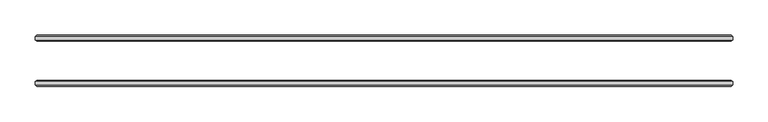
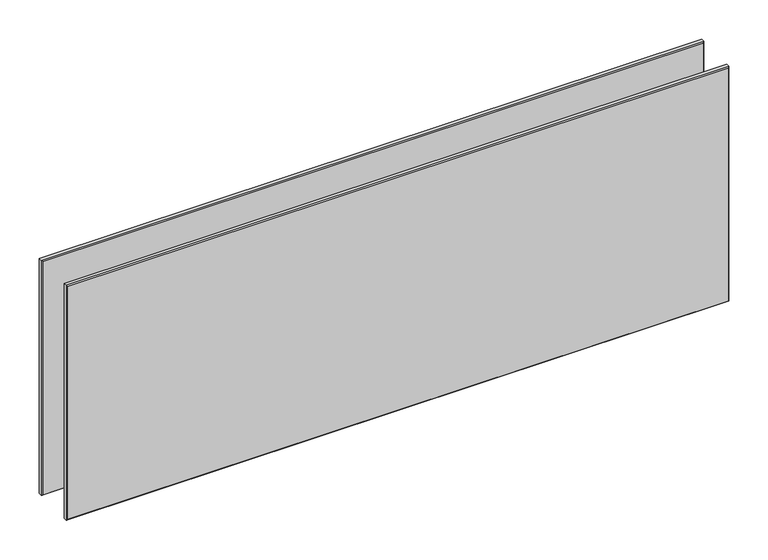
"""IFC4 building model written with IfcOpenShell, lengths in millimetres: plate geometry, 3-AMG-2-Панель двойной витраж 8, 10 : Смещение 32 Толщина 8mm."""

from ifc_helpers import new_model, si_unit, origin, place, context, project, spatial, faceted_brep, source, transform, mapped, element, save


def plate_1a683a38(model_context):
    return source(origin(), model_context, "Body", "Brep", [
        faceted_brep([(491.2682676, -34.4961653, 361.9623438), (491.2682676, -29.5038347, 361.9623438), (-491.2682676, -29.5038347, 361.9623438), (-491.2682676, -34.4961653, 361.9623438), (491.2682676, -29.5038347, -7.0), (491.2682676, -34.4961653, -7.0), (-491.2682676, -34.4961653, -7.0), (-491.2682676, -29.5038347, -7.0), (-489.7644328, -28.0, 360.4585091), (489.7644328, -28.0, 360.4585091), (489.7644328, -28.0, -5.5039422), (-489.7644328, -28.0, -5.5039422), (489.7644328, -36.0, 360.4585091), (-489.7644328, -36.0, 360.4585091), (-489.7644328, -36.0, -5.4961653), (489.7644328, -36.0, -5.4961653)], [[[0, 1, 2, 3]], [[4, 5, 6, 7]], [[8, 9, 10, 11]], [[3, 2, 7, 6]], [[12, 13, 14, 15]], [[1, 0, 5, 4]], [[1, 4, 10, 9]], [[5, 0, 12, 15]], [[0, 3, 13, 12]], [[2, 1, 9, 8]], [[7, 2, 8, 11]], [[3, 6, 14, 13]], [[6, 5, 15, 14]], [[4, 7, 11, 10]]]),
        faceted_brep([(491.2682676, 29.5038347, 361.9623438), (491.2682676, 34.4961653, 361.9623438), (-491.2682676, 34.4961653, 361.9623438), (-491.2682676, 29.5038347, 361.9623438), (491.2682676, 34.4961653, -7.0), (491.2682676, 29.5038347, -7.0), (-491.2682676, 29.5038347, -7.0), (-491.2682676, 34.4961653, -7.0), (-489.7644328, 36.0, 360.4585091), (489.7644328, 36.0, 360.4585091), (489.7644328, 36.0, -5.5039422), (-489.7644328, 36.0, -5.5039422), (489.7644328, 28.0, 360.4585091), (-489.7644328, 28.0, 360.4585091), (-489.7644328, 28.0, -5.4961653), (489.7644328, 28.0, -5.4961653)], [[[0, 1, 2, 3]], [[4, 5, 6, 7]], [[8, 9, 10, 11]], [[3, 2, 7, 6]], [[12, 13, 14, 15]], [[1, 0, 5, 4]], [[1, 4, 10, 9]], [[5, 0, 12, 15]], [[7, 2, 8, 11]], [[3, 6, 14, 13]], [[0, 3, 13, 12]], [[2, 1, 9, 8]], [[6, 5, 15, 14]], [[4, 7, 11, 10]]]),
    ])


if __name__ == "__main__":
    model = new_model("IFC4")
    model_context = context("Model", 3, world=origin())
    ifc_project = project(units=[si_unit("LENGTHUNIT", "METRE", prefix="MILLI")], contexts=[model_context])
    site = spatial("IfcSite", under=ifc_project)
    building = spatial("IfcBuilding", under=site)
    placement = place(None, origin())
    plate_shape = plate_1a683a38(model_context)
    element("IfcPlate", 1, ObjectType="3-AMG-2-Панель двойной витраж 8, 10 : Смещение 32 Толщина 8mm", at=placement, inside=building, context=model_context, shape_type="MappedRepresentation", body=[
        mapped(plate_shape, transform((0.0, 0.0, 0.0), x_axis=(1.0, 0.0, 0.0), y_axis=(0.0, 1.0, 0.0), z_axis=(0.0, 0.0, 1.0))),
    ])
    save(model, "model.ifc")
